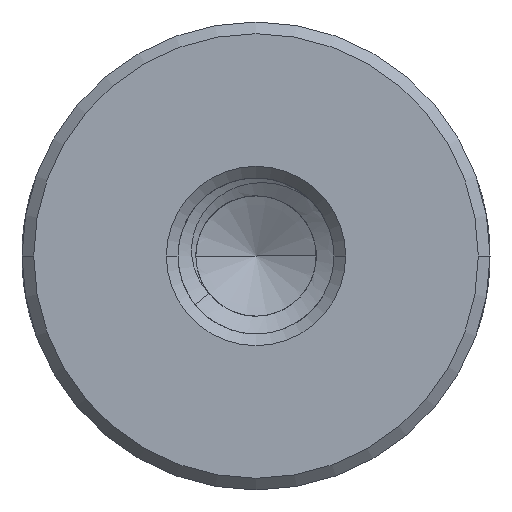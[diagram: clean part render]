
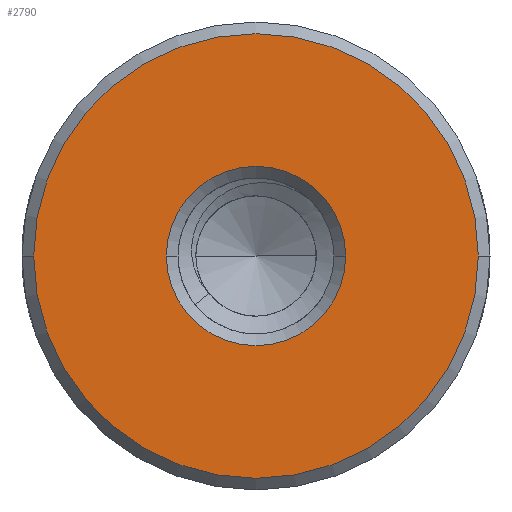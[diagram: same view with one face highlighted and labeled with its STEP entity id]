
A CAD part, front view. The second image highlights one B-rep face of the part: STEP entity #2790.
In plain terms, the highlighted planar face has unit normal (0, -1, 0).
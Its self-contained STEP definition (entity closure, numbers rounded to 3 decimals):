
#1=CARTESIAN_POINT('',(0.,-20.,0.));
#2=DIRECTION('',(0.,-1.,0.));
#3=DIRECTION('',(-1.,0.,0.));
#4=AXIS2_PLACEMENT_3D('',#1,#2,#3);
#6=CARTESIAN_POINT('',(0.,-20.,0.));
#7=DIRECTION('',(0.,-1.,0.));
#8=DIRECTION('',(1.,0.,0.));
#9=AXIS2_PLACEMENT_3D('',#6,#7,#8);
#11=CARTESIAN_POINT('',(0.,-20.,0.));
#12=DIRECTION('',(0.,1.,0.));
#13=DIRECTION('',(-1.,0.,0.));
#14=AXIS2_PLACEMENT_3D('',#11,#12,#13);
#16=CARTESIAN_POINT('',(0.,-20.,0.));
#17=DIRECTION('',(0.,1.,0.));
#18=DIRECTION('',(1.,0.,0.));
#19=AXIS2_PLACEMENT_3D('',#16,#17,#18);
#2617=CARTESIAN_POINT('',(-5.7,-20.,0.));
#2618=CARTESIAN_POINT('',(5.7,-20.,0.));
#2619=VERTEX_POINT('',#2617);
#2620=VERTEX_POINT('',#2618);
#2765=CARTESIAN_POINT('',(-2.3,-20.,0.));
#2766=CARTESIAN_POINT('',(2.3,-20.,0.));
#2767=VERTEX_POINT('',#2765);
#2768=VERTEX_POINT('',#2766);
#2773=CARTESIAN_POINT('',(0.,-20.,0.));
#2774=DIRECTION('',(0.,1.,0.));
#2775=DIRECTION('',(1.,0.,0.));
#2776=AXIS2_PLACEMENT_3D('',#2773,#2774,#2775);
#2777=PLANE('',#2776);
#2779=ORIENTED_EDGE('',*,*,#2778,.F.);
#2781=ORIENTED_EDGE('',*,*,#2780,.F.);
#2782=EDGE_LOOP('',(#2779,#2781));
#2783=FACE_OUTER_BOUND('',#2782,.F.);
#2785=ORIENTED_EDGE('',*,*,#2784,.F.);
#2787=ORIENTED_EDGE('',*,*,#2786,.F.);
#2788=EDGE_LOOP('',(#2785,#2787));
#2789=FACE_BOUND('',#2788,.F.);
#2790=ADVANCED_FACE('',(#2783,#2789),#2777,.F.);
#5=CIRCLE('',#4,5.7);
#10=CIRCLE('',#9,5.7);
#15=CIRCLE('',#14,2.3);
#20=CIRCLE('',#19,2.3);
#2778=EDGE_CURVE('',#2619,#2620,#5,.T.);
#2780=EDGE_CURVE('',#2620,#2619,#10,.T.);
#2784=EDGE_CURVE('',#2767,#2768,#15,.T.);
#2786=EDGE_CURVE('',#2768,#2767,#20,.T.);
